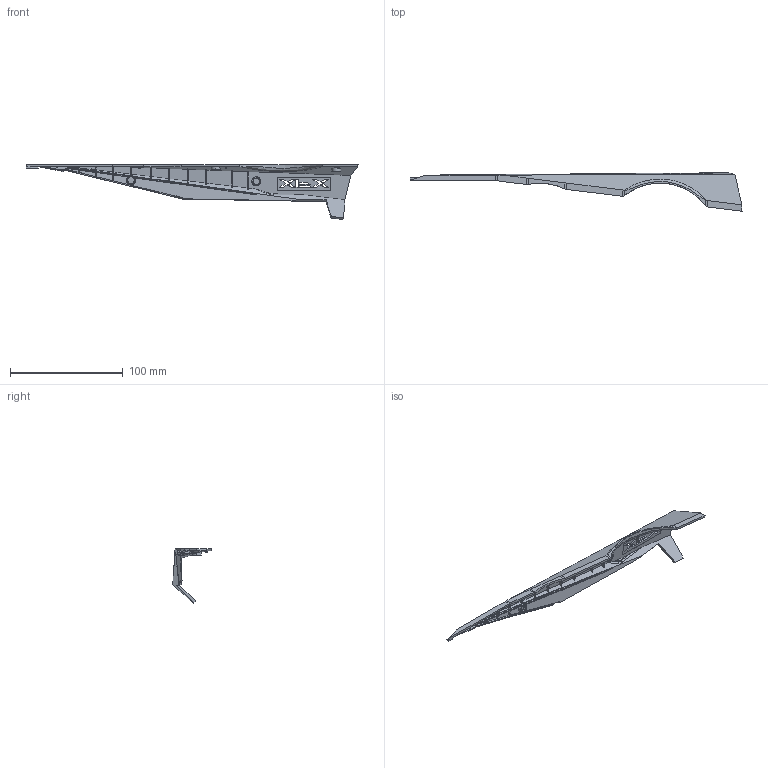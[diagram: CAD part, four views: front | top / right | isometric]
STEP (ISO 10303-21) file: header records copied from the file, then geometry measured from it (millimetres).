
FILE_DESCRIPTION (( 'STEP AP214' ), '1' );
FILE_NAME ('SWFT 2025 Cutout Branding 3625.STEP', '2025-03-07T04:57:22', ( '' ), ( '' ), 'SwSTEP 2.0', 'SolidWorks 2023', '' );
FILE_SCHEMA (( 'AUTOMOTIVE_DESIGN' ));
Length unit declared in the file: millimetre
Products named in the file (1): SWFT 2025 Cutout Branding 3625
Bounding box: 294.4 x 34.16 x 48.6 mm (x, y, z)
Volume: 19092.4 mm3; surface area: 21978.3 mm2
Topology: 1 solids, 1 shells, 290 faces, 844 edges, 567 vertices
Faces by surface type: plane 242, cylinder 17, bspline 15, cone 10, torus 6
Entity records: 12268 total; most frequent: CARTESIAN_POINT 5525, ORIENTED_EDGE 1688, DIRECTION 926, EDGE_CURVE 844, VERTEX_POINT 567, B_SPLINE_CURVE_WITH_KNOTS 490, VECTOR 334, LINE 334
